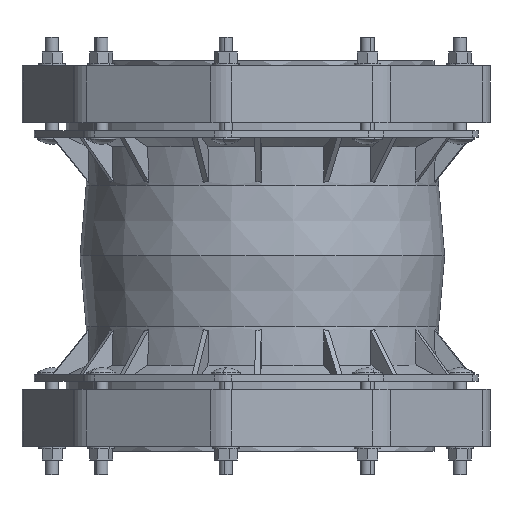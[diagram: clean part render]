
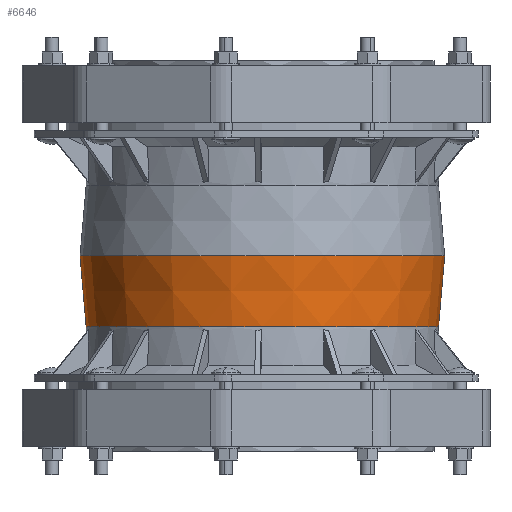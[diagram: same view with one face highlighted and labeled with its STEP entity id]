
A CAD part, left-side view. The second image highlights one B-rep face of the part: STEP entity #6646.
In plain terms, the highlighted conical face has half-angle 4.935 degrees and reference radius 214.86 mm.
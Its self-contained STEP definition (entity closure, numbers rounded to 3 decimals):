
#1617=DIRECTION('',(0.,-0.086,-0.996));
#1618=VECTOR('',#1617,85.316);
#1619=CARTESIAN_POINT('',(0.,218.53,0.));
#1620=LINE('',#1619,#1618);
#1621=DIRECTION('',(0.,0.086,-0.996));
#1622=VECTOR('',#1621,85.316);
#1623=CARTESIAN_POINT('',(0.,-218.53,0.));
#1624=LINE('',#1623,#1622);
#1625=CARTESIAN_POINT('',(0.,0.,0.));
#1626=DIRECTION('',(0.,0.,1.));
#1627=DIRECTION('',(0.,1.,0.));
#1628=AXIS2_PLACEMENT_3D('',#1625,#1626,#1627);
#1762=CARTESIAN_POINT('',(0.,0.,-85.));
#1763=DIRECTION('',(0.,0.,1.));
#1764=DIRECTION('',(0.,1.,0.));
#1765=AXIS2_PLACEMENT_3D('',#1762,#1763,#1764);
#4676=CARTESIAN_POINT('',(0.,218.53,0.));
#4677=CARTESIAN_POINT('',(0.,-218.53,0.));
#4678=VERTEX_POINT('',#4676);
#4679=VERTEX_POINT('',#4677);
#4684=CARTESIAN_POINT('',(0.,211.19,-85.));
#4685=VERTEX_POINT('',#4684);
#4686=CARTESIAN_POINT('',(0.,-211.19,-85.));
#4687=VERTEX_POINT('',#4686);
#6633=CARTESIAN_POINT('',(0.,0.,-42.5));
#6634=DIRECTION('',(0.,0.,1.));
#6635=DIRECTION('',(0.,1.,0.));
#6636=AXIS2_PLACEMENT_3D('',#6633,#6634,#6635);
#6637=CONICAL_SURFACE('',#6636,214.86,4.935);
#6639=ORIENTED_EDGE('',*,*,#6638,.T.);
#6640=ORIENTED_EDGE('',*,*,#6628,.T.);
#6642=ORIENTED_EDGE('',*,*,#6641,.F.);
#6643=ORIENTED_EDGE('',*,*,#6624,.F.);
#6644=EDGE_LOOP('',(#6639,#6640,#6642,#6643));
#6645=FACE_OUTER_BOUND('',#6644,.F.);
#6646=ADVANCED_FACE('',(#6645),#6637,.T.);
#1629=CIRCLE('',#1628,218.53);
#1766=CIRCLE('',#1765,211.19);
#6624=EDGE_CURVE('',#4678,#4685,#1620,.T.);
#6628=EDGE_CURVE('',#4679,#4687,#1624,.T.);
#6638=EDGE_CURVE('',#4678,#4679,#1629,.T.);
#6641=EDGE_CURVE('',#4685,#4687,#1766,.T.);
